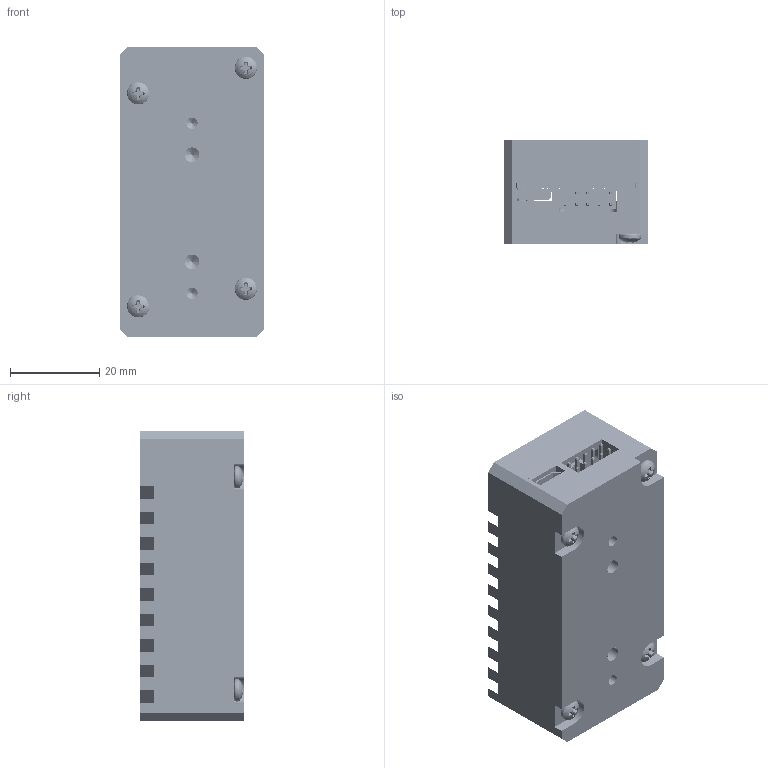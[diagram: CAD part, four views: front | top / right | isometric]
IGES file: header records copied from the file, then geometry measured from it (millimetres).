
Start section: SolidWorks IGES file using analytic representation for surfaces
Global section: file name: H:\FREELACER\NEW 2017\41\Pro 24-MC CONE\9..MAR-17-2019\MCONE  shrink wrap-v1.IGS; native system: SolidWorks 2018; preprocessor: SolidWorks 2018; author: DUY MINH; date: 190323.091258; units: millimetre
Bounding box: 32.44 x 23.25 x 65.16 mm (x, y, z)
Surface area: 20005.4 mm2 (no closed solid volume)
Topology: 0 solids, 0 shells, 1569 faces, 21972 edges, 21956 vertices
Faces by surface type: revolution 936, bspline 633
